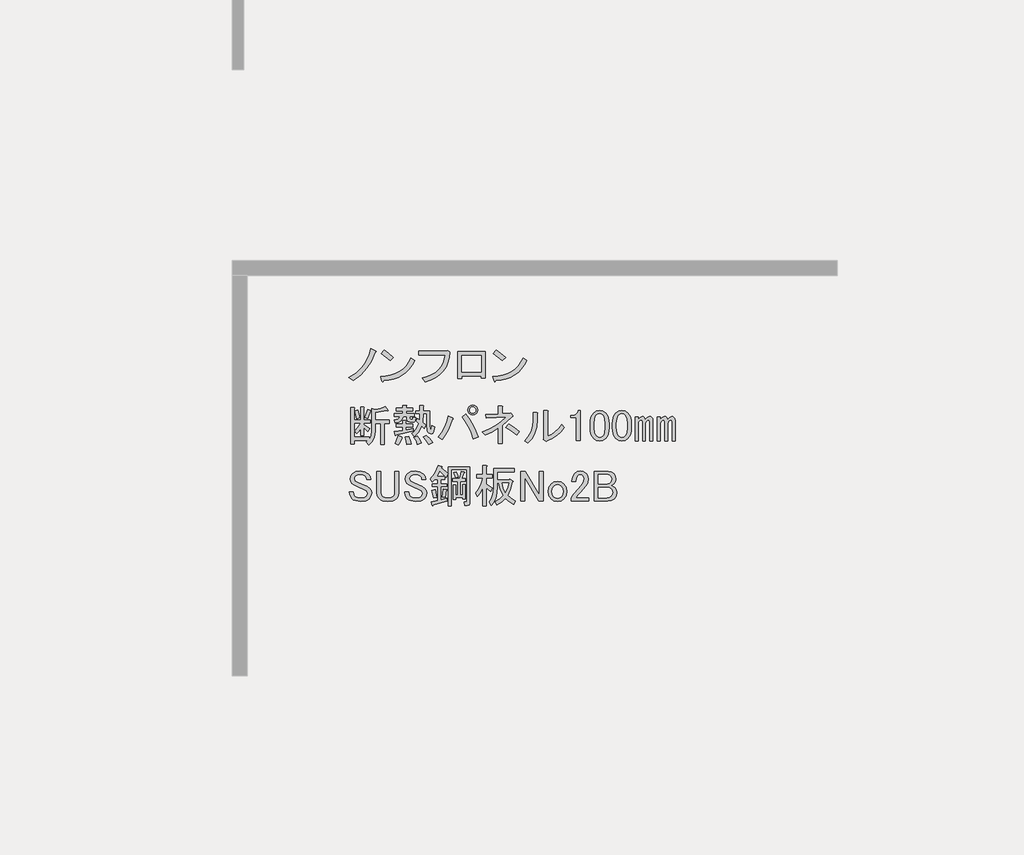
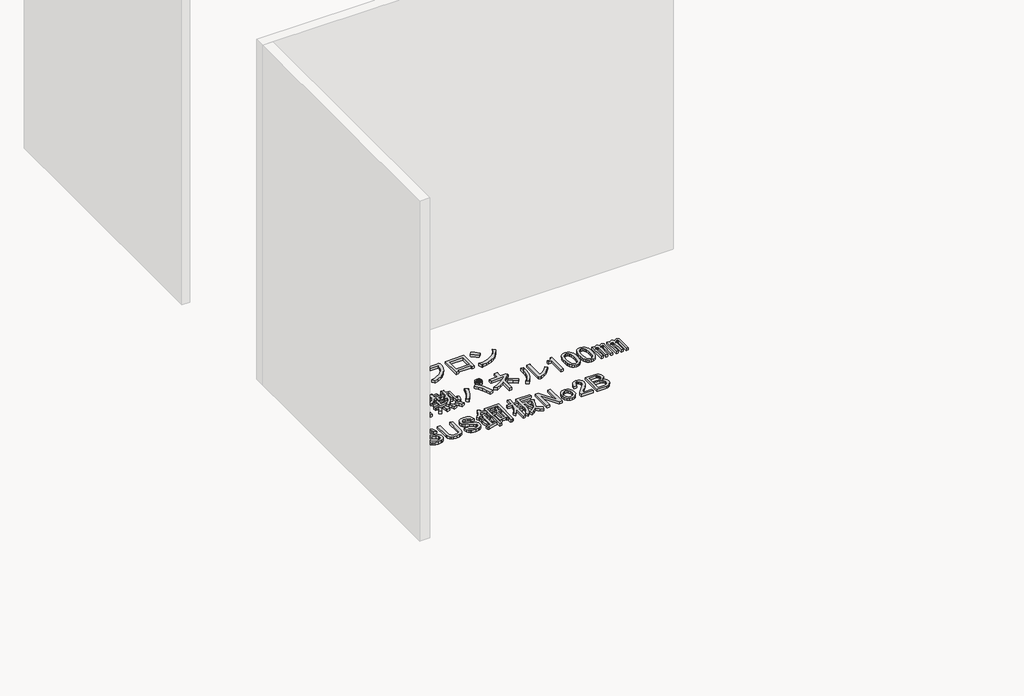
# One storey, part 42 of 117: 1 proxy.
"""IFC4 building model written with IfcOpenShell, lengths in millimetres."""

import ifcopenshell
import ifcopenshell.guid

model = None  # the IFC model being written
_history = None  # IfcOwnerHistory: only IFC2X3 demands one
_inside = {}  # id of a spatial element -> (the spatial element, [elements in it])
_under = {}  # id of a project, library or spatial element -> (it, [spatial elements below it])
_declared = {}  # id of a project -> (the project, [libraries it declares])
_typed = {}  # id of a type object -> (the type object, [elements of that type])
_made_of = {}  # id of a material, layer set ... -> (it, [elements and type objects made of it])


def new_model(schema):
    """Start an empty IFC model of exactly this schema.

    Asked for "IFC4X3", IfcOpenShell would pick the latest addendum, in which some entities
    have other attributes; the version numbers below select the first issue.
    IFC2X3 requires an IfcOwnerHistory on every rooted entity: one is made here for all.
    """
    global model, _history
    if schema == "IFC4X3":
        model = ifcopenshell.file(schema_version=(4, 3, 0, 0))
    else:
        model = ifcopenshell.file(schema=schema)
    _inside.clear()
    _under.clear()
    _declared.clear()
    _typed.clear()
    _made_of.clear()
    _history = None
    if model.schema == "IFC2X3":
        org = make("IfcOrganization", Name="unknown")
        user = make(
            "IfcPersonAndOrganization",
            ThePerson=make("IfcPerson", FamilyName="unknown"),
            TheOrganization=org,
        )
        app = make(
            "IfcApplication",
            ApplicationDeveloper=org,
            Version="unknown",
            ApplicationFullName="unknown",
            ApplicationIdentifier="unknown",
        )
        _history = make(
            "IfcOwnerHistory",
            OwningUser=user,
            OwningApplication=app,
            ChangeAction="ADDED",
            CreationDate=0,
        )
    return model


def make(cls, **values):
    """One entity of the class cls with the attributes given. An attribute that is None is left unset."""
    return model.create_entity(
        cls, **{name: value for name, value in values.items() if value is not None}
    )


def rooted(cls, **values):
    """An entity with a GlobalId (a new one), such as an element, a storey or a relation."""
    return make(cls, GlobalId=ifcopenshell.guid.new(), OwnerHistory=_history, **values)


def si_unit(unit_type, name, prefix=None):
    """IfcSIUnit, for example si_unit("LENGTHUNIT", "METRE", prefix="MILLI")."""
    return make("IfcSIUnit", UnitType=unit_type, Prefix=prefix, Name=name)


def assignment(units):
    """IfcUnitAssignment: the units of a project."""
    return None if units is None else make("IfcUnitAssignment", Units=units)


def point(xyz):
    """IfcCartesianPoint."""
    return None if xyz is None else make("IfcCartesianPoint", Coordinates=xyz)


def direction(xyz):
    """IfcDirection."""
    return None if xyz is None else make("IfcDirection", DirectionRatios=xyz)


def frame(location, z_axis=None, x_axis=None):
    """IfcAxis2Placement3D, a coordinate frame: its origin and axes. An axis left out is left unset."""
    return make(
        "IfcAxis2Placement3D",
        Location=point(location),
        Axis=direction(z_axis),
        RefDirection=direction(x_axis),
    )


def origin():
    """The frame at (0, 0, 0) with its axes left unset."""
    return frame((0.0, 0.0, 0.0))


def place(relative_to, where):
    """IfcLocalPlacement: puts the frame where relative to a parent placement (None: the world)."""
    return make(
        "IfcLocalPlacement", PlacementRelTo=relative_to, RelativePlacement=where
    )


def context(
    kind, dimensions, precision=None, world=None, true_north=None, identifier=None
):
    """IfcGeometricRepresentationContext, for example the 3D "Model" context."""
    return make(
        "IfcGeometricRepresentationContext",
        ContextIdentifier=identifier,
        ContextType=kind,
        CoordinateSpaceDimension=dimensions,
        Precision=precision,
        WorldCoordinateSystem=world,
        TrueNorth=true_north,
    )


def project(units=None, contexts=None):
    """IfcProject with its units and contexts."""
    return rooted(
        "IfcProject",
        Name="project",
        RepresentationContexts=contexts,
        UnitsInContext=assignment(units),
    )


def spatial(cls, under=None, at=None, **own):
    """A site, building, storey or space (cls), placed at a placement, below another one or the project."""
    s = rooted(cls, ObjectPlacement=at, **own)
    if under is not None:
        _under.setdefault(under.id(), (under, []))[1].append(s)
    return s


def polyline(points):
    """IfcPolyline through the points."""
    return make("IfcPolyline", Points=[point(p) for p in points])


def outline(outer, holes=None, kind="AREA"):
    """IfcArbitraryClosedProfileDef: a profile drawn as a closed curve; with holes, ...WithVoids."""
    if holes is None:
        return make("IfcArbitraryClosedProfileDef", ProfileType=kind, OuterCurve=outer)
    return make(
        "IfcArbitraryProfileDefWithVoids",
        ProfileType=kind,
        OuterCurve=outer,
        InnerCurves=holes,
    )


def extrude(swept, where, along, depth):
    """IfcExtrudedAreaSolid: the profile swept, set in the frame where, extruded along a direction by depth."""
    return make(
        "IfcExtrudedAreaSolid",
        SweptArea=swept,
        Position=where,
        ExtrudedDirection=direction(along),
        Depth=depth,
    )


def shape(context_of_items, identifier, shape_type, items):
    """IfcShapeRepresentation: the items that make up one representation, for example the "Body"."""
    return make(
        "IfcShapeRepresentation",
        ContextOfItems=context_of_items,
        RepresentationIdentifier=identifier,
        RepresentationType=shape_type,
        Items=items,
    )


def made_of(thing, what):
    """Note that an element or type object is made of a material, layer set ...; save() writes the relation."""
    if what is not None:
        _made_of.setdefault(what.id(), (what, []))[1].append(thing)
    return thing


def element(
    cls,
    number,
    at=None,
    inside=None,
    cuts=None,
    type_object=None,
    material=None,
    context=None,
    identifier="Body",
    shape_type=None,
    held_by="IfcProductDefinitionShape",
    body=None,
    shapes=None,
    **own,
):
    """One element of the class cls, such as IfcWall. Its Tag is "e" and its number.

    at: its placement. inside: the storey or other place that contains it. cuts: it is an
    opening in that element (IfcRelVoidsElement). A single representation is given by context,
    identifier, shape_type and body (its items); several are given by shapes. held_by: the class
    of the entity that holds the representations. save() writes the other relations.
    """
    e = rooted(cls, Tag="e%d" % number, ObjectPlacement=at, **own)
    if body is not None:
        shapes = [shape(context, identifier, shape_type, body)]
    if shapes is not None:
        e.Representation = make(held_by, Representations=shapes)
    if inside is not None:
        _inside.setdefault(inside.id(), (inside, []))[1].append(e)
    if cuts is not None:
        rooted(
            "IfcRelVoidsElement", RelatingBuildingElement=cuts, RelatedOpeningElement=e
        )
    if type_object is not None:
        _typed.setdefault(type_object.id(), (type_object, []))[1].append(e)
    return made_of(e, material)


def aggregate(whole, parts):
    """IfcRelAggregates: a whole, such as a stair, and the parts it consists of."""
    return rooted("IfcRelAggregates", RelatingObject=whole, RelatedObjects=parts)


def save(model, path):
    """Write the relations noted so far, then the file.

    IfcRelAggregates (storeys below a building ...), IfcRelContainedInSpatialStructure (elements
    in a storey), IfcRelDefinesByType, IfcRelAssociatesMaterial and IfcRelDeclares: one each for
    every whole, place, type object, material and project.
    """
    for whole, parts in _under.values():
        aggregate(whole, parts)
    for where, things in _inside.values():
        rooted(
            "IfcRelContainedInSpatialStructure",
            RelatedElements=things,
            RelatingStructure=where,
        )
    for kind, things in _typed.values():
        rooted("IfcRelDefinesByType", RelatedObjects=things, RelatingType=kind)
    for what, things in _made_of.values():
        rooted("IfcRelAssociatesMaterial", RelatedObjects=things, RelatingMaterial=what)
    for by, libraries in _declared.values():
        rooted("IfcRelDeclares", RelatingContext=by, RelatedDefinitions=libraries)
    model.write(path)


model = new_model("IFC4")

# Units and contexts
model_context = context("Model", 3, world=origin())
ifc_project = project(units=[si_unit("LENGTHUNIT", "METRE", prefix="MILLI")], contexts=[model_context])

# Site, building, storey
site = spatial("IfcSite", under=ifc_project)
building = spatial("IfcBuilding", under=site)
storey = spatial("IfcBuildingStorey", under=building, Name="レベル 1", Elevation=500.0)

# Proxy
placement = place(None, origin())
element("IfcBuildingElementProxy", 1, Name="200㎜\u3000MS Pゴシック", ObjectType="200㎜\u3000MS Pゴシック", at=placement, inside=storey, context=model_context, shape_type="SweptSolid", body=[
    extrude(outline(polyline([(8943.6706985, -4607.0496882), (8918.0952502, -4666.8215225), (8889.646156, -4712.7998566), (8847.9782907, -4758.2034615), (8798.8389462, -4795.560858), (8771.2519457, -4773.7211493), (8818.9544673, -4743.2605029), (8858.6107805, -4704.7536481), (8875.9963381, -4680.8305462), (8891.3703435, -4652.7406577), (8904.7327969, -4620.4839827), (8916.0836981, -4584.0605212), (8947.1190736, -4597.8540214), (8950.2800841, -4602.4518548), (8943.6706985, -4607.0496882)])), frame((0.0, 0.0, 500.0), z_axis=(0.0, 0.0, 1.0), x_axis=(1.0, 0.0, 0.0)), (0.0, 0.0, 1.0), 25.0),
    extrude(outline(polyline([(9043.3977052, -4662.2236891), (8984.7753292, -4615.0958967), (9004.3161212, -4590.9572713), (9031.6157571, -4610.7854279), (9065.2374138, -4640.3839804), (9043.3977052, -4662.2236891)])), frame((0.0, 0.0, 500.0), z_axis=(0.0, 0.0, 1.0), x_axis=(1.0, 0.0, 0.0)), (0.0, 0.0, 1.0), 25.0),
    extrude(outline(polyline([(9205.4713328, -4662.2236891), (9188.947869, -4691.965924), (9169.8381239, -4717.9724192), (9148.1420975, -4740.2431748), (9123.8597898, -4758.7781907), (9096.9912008, -4773.577467), (9067.5363306, -4784.6410036), (9035.495179, -4791.9688006), (9000.8677461, -4795.560858), (8995.1204544, -4803.6070664), (8989.3731626, -4797.8597747), (8980.1774958, -4767.9738575), (9016.0082679, -4765.2977748), (9048.7857912, -4758.9937141), (9078.5100658, -4749.0616756), (9105.1810916, -4735.5016591), (9128.7988687, -4718.3136646), (9149.363397, -4697.4976923), (9166.8746766, -4673.053742), (9181.3327074, -4644.9818138), (9205.4713328, -4662.2236891)])), frame((0.0, 0.0, 500.0), z_axis=(0.0, 0.0, 1.0), x_axis=(1.0, 0.0, 0.0)), (0.0, 0.0, 1.0), 25.0),
    extrude(outline(polyline([(9256.2314136, -4777.1695243), (9290.014713, -4767.4889298), (9319.5234641, -4755.1142922), (9344.757667, -4740.0456116), (9365.7173217, -4722.282888), (9382.402428, -4701.8261214), (9394.8129862, -4678.6753118), (9402.9489961, -4652.8304591), (9406.8104577, -4624.2915635), (9234.3917049, -4624.2915635), (9234.3917049, -4599.0034798), (9409.1093744, -4599.0034798), (9425.2017914, -4595.5551047), (9437.8458332, -4607.0496882), (9434.325617, -4643.5449909), (9426.0638851, -4676.5919185), (9413.0606375, -4706.1904711), (9395.3158742, -4732.3406486), (9372.8295952, -4755.042451), (9345.6018005, -4774.2958784), (9313.6324901, -4790.1009308), (9276.921664, -4802.4576081), (9256.2314136, -4777.1695243)])), frame((0.0, 0.0, 500.0), z_axis=(0.0, 0.0, 1.0), x_axis=(1.0, 0.0, 0.0)), (0.0, 0.0, 1.0), 25.0),
    extrude(outline(polyline([(9670.955987, -4776.020066), (9644.5184449, -4776.020066), (9644.5184449, -4763.3760241), (9516.9285679, -4763.3760241), (9516.9285679, -4781.7673577), (9490.4910258, -4781.7673577), (9490.4910258, -4602.4518548), (9670.955987, -4602.4518548), (9670.955987, -4776.020066)]), holes=[polyline([(9516.9285679, -4627.7399386), (9516.9285679, -4738.0879404), (9644.5184449, -4738.0879404), (9644.5184449, -4627.7399386), (9516.9285679, -4627.7399386)])]), frame((0.0, 0.0, 500.0), z_axis=(0.0, 0.0, 1.0), x_axis=(1.0, 0.0, 0.0)), (0.0, 0.0, 1.0), 25.0),
    extrude(outline(polyline([(9947.0099049, -4662.2236891), (9930.4864411, -4691.965924), (9911.376696, -4717.9724192), (9889.6806696, -4740.2431748), (9865.3983619, -4758.7781907), (9838.5297729, -4773.577467), (9809.0749026, -4784.6410036), (9777.0337511, -4791.9688006), (9742.4063182, -4795.560858), (9736.6590264, -4803.6070664), (9730.9117347, -4797.8597747), (9721.7160679, -4767.9738575), (9757.5468399, -4765.2977748), (9790.3243633, -4758.9937141), (9820.0486378, -4749.0616756), (9846.7196637, -4735.5016591), (9870.3374407, -4718.3136646), (9890.9019691, -4697.4976923), (9908.4132486, -4673.053742), (9922.8712795, -4644.9818138), (9947.0099049, -4662.2236891)])), frame((0.0, 0.0, 500.0), z_axis=(0.0, 0.0, 1.0), x_axis=(1.0, 0.0, 0.0)), (0.0, 0.0, 1.0), 25.0),
    extrude(outline(polyline([(9784.9362772, -4662.2236891), (9726.3139013, -4615.0958967), (9745.8546933, -4590.9572713), (9773.1543291, -4610.7854279), (9806.7759859, -4640.3839804), (9784.9362772, -4662.2236891)])), frame((0.0, 0.0, 500.0), z_axis=(0.0, 0.0, 1.0), x_axis=(1.0, 0.0, 0.0)), (0.0, 0.0, 1.0), 25.0),
    extrude(outline(polyline([(8877.0021141, -5039.2345221), (8894.2439894, -4986.3594379), (8914.9342397, -4992.1067296), (8916.6584273, -4995.2677401), (8912.635323, -4997.8540214), (8895.3934477, -5046.1312722), (8877.0021141, -5039.2345221)])), frame((0.0, 0.0, 500.0), z_axis=(0.0, 0.0, 1.0), x_axis=(1.0, 0.0, 0.0)), (0.0, 0.0, 1.0), 25.0),
    extrude(outline(polyline([(9031.0295333, -4990.9572713), (9029.3053458, -4995.5551047), (9021.8338665, -4993.256188), (8944.8201569, -5005.9002299), (8944.8201569, -5055.326939), (9036.7768251, -5055.326939), (9036.7768251, -5077.1666477), (9005.7414495, -5077.1666477), (9005.7414495, -5217.4005666), (8982.7522825, -5217.4005666), (8982.7522825, -5077.1666477), (8944.8201569, -5077.1666477), (8944.8201569, -5126.5933568), (8942.2338756, -5154.3958807), (8934.4750317, -5179.1810764), (8921.5436253, -5200.948944), (8903.4396562, -5219.6994833), (8886.1977809, -5200.1586914), (8896.5429061, -5190.9630245), (8806.8851546, -5190.9630245), (8806.8851546, -5212.8027332), (8783.8959876, -5212.8027332), (8783.8959876, -4973.715396), (8805.7356963, -4973.715396), (8810.6208943, -4976.0143127), (8806.8851546, -4980.6121461), (8806.8851546, -5056.4763974), (8849.4151137, -5056.4763974), (8849.4151137, -4969.1175626), (8867.8064473, -4969.1175626), (8872.6916453, -4971.4164793), (8868.9559057, -4976.0143127), (8868.9559057, -5056.4763974), (8912.635323, -5056.4763974), (8912.635323, -5074.867731), (8868.9559057, -5074.867731), (8868.9559057, -5084.0633978), (8909.186948, -5110.5009399), (8895.3934477, -5132.3406486), (8868.9559057, -5105.9031065), (8868.9559057, -5158.7781907), (8849.4151137, -5158.7781907), (8849.4151137, -5110.5009399), (8836.1963426, -5130.3290965), (8821.8281132, -5146.1341488), (8809.1840713, -5127.7428152), (8831.02378, -5103.6041898), (8848.2656553, -5074.867731), (8806.8851546, -5074.867731), (8806.8851546, -5169.1233159), (8904.5891146, -5169.1233159), (8904.5891146, -5182.9168161), (8917.520521, -5158.7781907), (8921.8309898, -5125.4438985), (8921.8309898, -4980.6121461), (8943.6706985, -4986.3594379), (8979.8786366, -4978.8879586), (9010.339283, -4965.6691875), (9031.0295333, -4990.9572713)])), frame((0.0, 0.0, 500.0), z_axis=(0.0, 0.0, 1.0), x_axis=(1.0, 0.0, 0.0)), (0.0, 0.0, 1.0), 25.0),
    extrude(outline(polyline([(8822.9775716, -5047.2807305), (8810.3335297, -4996.7045631), (8829.8743217, -4989.8078129), (8837.6331656, -5013.9464383), (8842.5183636, -5040.3839804), (8822.9775716, -5047.2807305)])), frame((0.0, 0.0, 500.0), z_axis=(0.0, 0.0, 1.0), x_axis=(1.0, 0.0, 0.0)), (0.0, 0.0, 1.0), 25.0),
    extrude(outline(polyline([(9121.8367431, -5167.9738575), (9125.2851182, -5172.8590555), (9119.5378264, -5176.020066), (9109.7674304, -5201.5955143), (9098.8475761, -5220.8489417), (9075.858409, -5209.3543582), (9088.5024509, -5185.790462), (9098.8475761, -5158.7781907), (9121.8367431, -5167.9738575)])), frame((0.0, 0.0, 500.0), z_axis=(0.0, 0.0, 1.0), x_axis=(1.0, 0.0, 0.0)), (0.0, 0.0, 1.0), 25.0),
    extrude(outline(polyline([(9166.6656188, -5163.3760241), (9176.7233794, -5190.67566), (9181.6085774, -5212.8027332), (9152.8721186, -5218.550025), (9150.2858373, -5196.9976809), (9142.5269934, -5166.8243992), (9166.6656188, -5163.3760241)])), frame((0.0, 0.0, 500.0), z_axis=(0.0, 0.0, 1.0), x_axis=(1.0, 0.0, 0.0)), (0.0, 0.0, 1.0), 25.0),
    extrude(outline(polyline([(9281.611454, -5157.6287323), (9306.3248086, -5178.8937119), (9325.2908714, -5203.6070664), (9298.8533293, -5218.550025), (9279.5999019, -5188.9514724), (9260.9212037, -5169.1233159), (9281.611454, -5157.6287323)])), frame((0.0, 0.0, 500.0), z_axis=(0.0, 0.0, 1.0), x_axis=(1.0, 0.0, 0.0)), (0.0, 0.0, 1.0), 25.0),
    extrude(outline(polyline([(9222.9890781, -5216.2511083), (9214.655505, -5191.5377537), (9201.1493694, -5170.2727742), (9221.8396197, -5162.2265657), (9238.7941304, -5183.7789098), (9250.5760785, -5207.0554415), (9222.9890781, -5216.2511083)])), frame((0.0, 0.0, 500.0), z_axis=(0.0, 0.0, 1.0), x_axis=(1.0, 0.0, 0.0)), (0.0, 0.0, 1.0), 25.0),
    extrude(outline(polyline([(9083.9046175, -5153.0308989), (9081.8930654, -5157.9160969), (9078.1573257, -5156.479274), (9072.410034, -5132.3406486), (9127.5840349, -5124.2944401), (9127.5840349, -5101.3052731), (9083.9046175, -5101.3052731), (9083.9046175, -5082.9139395), (9127.5840349, -5082.9139395), (9127.5840349, -5059.9247724), (9145.9753685, -5059.9247724), (9150.8605665, -5062.2236891), (9147.1248268, -5066.8215225), (9147.1248268, -5082.9139395), (9191.9537026, -5082.9139395), (9191.9537026, -5101.3052731), (9147.1248268, -5101.3052731), (9147.1248268, -5120.8460651), (9197.7009943, -5111.6503983), (9197.7009943, -5127.7428152), (9083.9046175, -5153.0308989)])), frame((0.0, 0.0, 500.0), z_axis=(0.0, 0.0, 1.0), x_axis=(1.0, 0.0, 0.0)), (0.0, 0.0, 1.0), 25.0),
    extrude(outline(polyline([(9154.021577, -5031.1883136), (9128.7334932, -5031.1883136), (9124.1356598, -5048.6457123), (9113.7905346, -5061.9363245), (9097.6981177, -5071.0601502), (9075.858409, -5076.0171893), (9071.2605756, -5056.4763974), (9096.5486594, -5047.8554597), (9104.0201386, -5040.5276627), (9108.0432429, -5031.1883136), (9072.410034, -5031.1883136), (9072.410034, -5012.79698), (9126.4345765, -5012.79698), (9126.4345765, -4995.5551047), (9082.7551591, -4995.5551047), (9082.7551591, -4977.1637711), (9126.4345765, -4977.1637711), (9126.4345765, -4958.7724374), (9148.2742852, -4958.7724374), (9153.1594832, -4961.0713541), (9149.4237436, -4965.6691875), (9149.4237436, -4977.1637711), (9191.9537026, -4977.1637711), (9191.9537026, -4995.5551047), (9149.4237436, -4995.5551047), (9149.4237436, -5012.79698), (9202.2988277, -5012.79698), (9202.2988277, -5031.1883136), (9173.5623689, -5031.1883136), (9173.5623689, -5043.8323555), (9174.9991919, -5049.0049181), (9179.3096607, -5050.7291056), (9189.6547859, -5050.7291056), (9193.3905255, -5047.5680951), (9193.1031609, -5038.0850637), (9212.6439529, -5040.3839804), (9209.770307, -5061.9363245), (9204.4540622, -5067.3244106), (9196.551536, -5069.1204392), (9172.4129106, -5069.1204392), (9158.6194104, -5064.2352412), (9154.021577, -5049.5796472), (9154.021577, -5031.1883136)])), frame((0.0, 0.0, 500.0), z_axis=(0.0, 0.0, 1.0), x_axis=(1.0, 0.0, 0.0)), (0.0, 0.0, 1.0), 25.0),
    extrude(outline(polyline([(9285.0598291, -5013.9464383), (9263.2201204, -5013.9464383), (9258.622287, -5071.4193559), (9278.163079, -5089.8106896), (9267.8179538, -5111.6503983), (9251.7255369, -5095.5579813), (9232.4721095, -5133.2027424), (9202.2988277, -5165.6749408), (9185.0569525, -5144.9846905), (9200.1435933, -5133.0590601), (9213.2186821, -5117.9724192), (9224.2822187, -5099.7247679), (9233.3342033, -5078.316106), (9216.092328, -5063.3731475), (9224.1385364, -5046.1312722), (9237.9320367, -5056.4763974), (9240.2309534, -5013.9464383), (9212.6439529, -5013.9464383), (9212.6439529, -4995.5551047), (9240.2309534, -4995.5551047), (9240.2309534, -4961.0713541), (9262.0706621, -4961.0713541), (9266.95586, -4963.3702708), (9263.2201204, -4967.9681043), (9263.2201204, -4995.5551047), (9304.6006211, -4995.5551047), (9304.6006211, -5092.1096063), (9308.0489961, -5116.2482317), (9311.2818477, -5118.2597838), (9314.0836525, -5115.0987733), (9318.3941213, -5093.2590646), (9337.9349133, -5100.1558147), (9333.408921, -5126.9525626), (9325.578236, -5142.9731384), (9314.4428582, -5148.2175421), (9300.0027877, -5142.6857738), (9293.4652433, -5135.3579768), (9288.7955687, -5123.719711), (9285.0598291, -5087.5117729), (9285.0598291, -5013.9464383)])), frame((0.0, 0.0, 500.0), z_axis=(0.0, 0.0, 1.0), x_axis=(1.0, 0.0, 0.0)), (0.0, 0.0, 1.0), 25.0),
    extrude(outline(polyline([(9543.6879583, -5016.245355), (9570.3410238, -5052.9561812), (9592.8273029, -5090.6727833), (9611.1467953, -5129.3951616), (9625.2995013, -5169.1233159), (9594.2641258, -5179.468441), (9578.8182792, -5136.3637528), (9561.2171982, -5097.856898), (9541.4608827, -5063.9478766), (9519.5493329, -5034.6366887), (9543.6879583, -5016.245355)])), frame((0.0, 0.0, 500.0), z_axis=(0.0, 0.0, 1.0), x_axis=(1.0, 0.0, 0.0)), (0.0, 0.0, 1.0), 25.0),
    extrude(outline(polyline([(9456.3291235, -5042.6828971), (9460.3522278, -5048.1428243), (9454.0302068, -5053.0280223), (9442.1045764, -5088.4457078), (9427.0179356, -5122.282888), (9408.7702842, -5154.539563), (9387.3616224, -5185.2157328), (9360.9240803, -5167.9738575), (9384.1287708, -5136.5074351), (9403.1666748, -5103.0294606), (9418.0377922, -5067.539934), (9428.7421231, -5030.0388553), (9456.3291235, -5042.6828971)])), frame((0.0, 0.0, 500.0), z_axis=(0.0, 0.0, 1.0), x_axis=(1.0, 0.0, 0.0)), (0.0, 0.0, 1.0), 25.0),
    extrude(outline(polyline([(9589.6662924, -5021.9926468), (9577.0222505, -5019.6937301), (9566.6771253, -5012.79698), (9559.7803752, -5002.4518548), (9557.4814585, -4989.8078129), (9559.7803752, -4977.1637711), (9566.6771253, -4966.8186459), (9577.0222505, -4959.9218958), (9589.6662924, -4957.6229791), (9602.3103343, -4959.9218958), (9612.6554594, -4966.8186459), (9619.5522095, -4977.1637711), (9621.8511262, -4989.8078129), (9619.5522095, -5002.4518548), (9612.6554594, -5012.79698), (9602.3103343, -5019.6937301), (9589.6662924, -5021.9926468)]), holes=[polyline([(9589.6662924, -5010.4980633), (9597.9998654, -5009.0612403), (9604.609251, -5004.7507715), (9608.9197198, -4998.141386), (9610.3565427, -4989.8078129), (9608.9197198, -4981.4742399), (9604.609251, -4974.8648544), (9597.9998654, -4970.5543855), (9589.6662924, -4969.1175626), (9581.3327193, -4970.5543855), (9574.7233338, -4974.8648544), (9570.412865, -4981.4742399), (9568.976042, -4989.8078129), (9570.412865, -4998.141386), (9574.7233338, -5004.7507715), (9581.3327193, -5009.0612403), (9589.6662924, -5010.4980633)])]), frame((0.0, 0.0, 500.0), z_axis=(0.0, 0.0, 1.0), x_axis=(1.0, 0.0, 0.0)), (0.0, 0.0, 1.0), 25.0),
    extrude(outline(polyline([(9879.3297971, -5155.3298156), (9842.2597652, -5126.0186277), (9809.2128376, -5104.7536481), (9826.4547129, -5082.9139395), (9865.2489323, -5106.1904711), (9898.8705891, -5132.3406486), (9879.3297971, -5155.3298156)])), frame((0.0, 0.0, 500.0), z_axis=(0.0, 0.0, 1.0), x_axis=(1.0, 0.0, 0.0)), (0.0, 0.0, 1.0), 25.0),
    extrude(outline(polyline([(9833.351463, -5011.6475216), (9840.2482131, -5009.3486049), (9852.892255, -5026.5904802), (9854.0417134, -5032.6251366), (9848.2944216, -5034.6366887), (9785.0742122, -5090.9601479), (9785.0742122, -5211.6532749), (9758.6366701, -5211.6532749), (9758.6366701, -5109.3514816), (9718.4056278, -5133.4901069), (9673.5767521, -5155.3298156), (9654.0359601, -5134.6395653), (9699.5832473, -5115.1706145), (9740.8200657, -5092.3969709), (9777.7464152, -5066.3186345), (9810.362296, -5036.9356054), (9680.4735022, -5042.6828971), (9677.0251271, -5017.3948134), (9758.6366701, -5015.0958967), (9758.6366701, -4963.3702708), (9781.6258372, -4963.3702708), (9787.6604935, -4966.8186459), (9785.0742122, -4972.5659377), (9785.0742122, -5013.9464383), (9833.351463, -5011.6475216)])), frame((0.0, 0.0, 500.0), z_axis=(0.0, 0.0, 1.0), x_axis=(1.0, 0.0, 0.0)), (0.0, 0.0, 1.0), 25.0),
    extrude(outline(polyline([(9932.296838, -5193.2619413), (9957.4412394, -5164.0225944), (9975.4015262, -5131.4785548), (9986.1776982, -5095.6298225), (9989.7697556, -5056.4763974), (9989.7697556, -5004.7507715), (10013.908381, -5004.7507715), (10019.6556727, -5008.1991466), (10016.2072977, -5013.9464383), (10016.2072977, -5055.326939), (10012.3997169, -5101.0897496), (10000.9769745, -5141.82368), (9981.9390705, -5177.5287301), (9955.286005, -5208.2048998), (9932.296838, -5193.2619413)])), frame((0.0, 0.0, 500.0), z_axis=(0.0, 0.0, 1.0), x_axis=(1.0, 0.0, 0.0)), (0.0, 0.0, 1.0), 25.0),
    extrude(outline(polyline([(10086.3242571, -5162.2265657), (10111.1094529, -5150.0135708), (10134.8888725, -5132.9153778), (10157.6625161, -5110.9319868), (10179.4303837, -5084.0633978), (10195.5228006, -5105.9031065), (10172.246269, -5133.7056304), (10146.0960914, -5157.3413678), (10117.0722681, -5176.8103186), (10085.1747988, -5192.1124829), (10075.979132, -5196.7103163), (10057.5877983, -5182.9168161), (10059.886715, -5177.1695243), (10059.886715, -4992.1067296), (10084.0253404, -4992.1067296), (10089.7726322, -4995.5551047), (10086.3242571, -5001.3023965), (10086.3242571, -5162.2265657)])), frame((0.0, 0.0, 500.0), z_axis=(0.0, 0.0, 1.0), x_axis=(1.0, 0.0, 0.0)), (0.0, 0.0, 1.0), 25.0),
    extrude(outline(polyline([(10274.8354269, -5015.0958967), (10282.8816353, -5004.1760423), (10286.3300104, -4992.1067296), (10300.1235106, -4992.1067296), (10300.1235106, -5190.9630245), (10273.6859685, -5190.9630245), (10273.6859685, -5038.0850637), (10239.202218, -5038.0850637), (10239.202218, -5024.2915635), (10249.5473431, -5024.2915635), (10263.9155725, -5021.9926468), (10274.8354269, -5015.0958967)])), frame((0.0, 0.0, 500.0), z_axis=(0.0, 0.0, 1.0), x_axis=(1.0, 0.0, 0.0)), (0.0, 0.0, 1.0), 25.0),
    extrude(outline(polyline([(10365.6426367, -5081.7644811), (10367.0794596, -5058.2005849), (10371.3899284, -5038.0850637), (10378.5740431, -5021.4179176), (10388.6318037, -5008.1991466), (10406.7357728, -4996.1298339), (10428.862846, -4992.1067296), (10450.9899193, -4996.1298339), (10469.0938884, -5008.1991466), (10479.1516489, -5021.4179176), (10486.3357636, -5038.0850637), (10490.6462325, -5058.2005849), (10492.0830554, -5081.7644811), (10492.0830554, -5104.7536481), (10490.6462325, -5127.8146563), (10486.3357636, -5147.5709718), (10479.1516489, -5164.0225944), (10469.0938884, -5177.1695243), (10450.9899193, -5189.238837), (10428.862846, -5193.2619413), (10406.7357728, -5189.238837), (10388.6318037, -5177.1695243), (10378.5740431, -5164.0225944), (10371.3899284, -5147.5709718), (10367.0794596, -5127.8146563), (10365.6426367, -5104.7536481), (10365.6426367, -5081.7644811)]), holes=[polyline([(10428.862846, -5013.9464383), (10417.9429917, -5016.245355), (10408.1725957, -5023.1421052), (10401.6350513, -5032.2659308), (10396.9653768, -5044.6944493), (10393.2296371, -5079.4655644), (10393.2296371, -5105.9031065), (10397.2527414, -5140.0994925), (10402.2816217, -5152.6716932), (10409.3220541, -5162.2265657), (10418.8050855, -5169.1233159), (10428.862846, -5171.4222326), (10439.7827004, -5169.1233159), (10449.5530964, -5162.2265657), (10456.0906408, -5153.1027401), (10460.7603153, -5140.6742216), (10464.496055, -5105.9031065), (10464.496055, -5079.4655644), (10460.7603153, -5044.6944493), (10456.0906408, -5032.2659308), (10449.5530964, -5023.1421052), (10439.7827004, -5016.245355), (10428.862846, -5013.9464383)])]), frame((0.0, 0.0, 500.0), z_axis=(0.0, 0.0, 1.0), x_axis=(1.0, 0.0, 0.0)), (0.0, 0.0, 1.0), 25.0),
    extrude(outline(polyline([(10512.7733057, -5081.7644811), (10514.2101287, -5058.2005849), (10518.5205975, -5038.0850637), (10525.7047122, -5021.4179176), (10535.7624728, -5008.1991466), (10553.8664418, -4996.1298339), (10575.9935151, -4992.1067296), (10598.1205884, -4996.1298339), (10616.2245574, -5008.1991466), (10626.282318, -5021.4179176), (10633.4664327, -5038.0850637), (10637.7769015, -5058.2005849), (10639.2137245, -5081.7644811), (10639.2137245, -5104.7536481), (10637.7769015, -5127.8146563), (10633.4664327, -5147.5709718), (10626.282318, -5164.0225944), (10616.2245574, -5177.1695243), (10598.1205884, -5189.238837), (10575.9935151, -5193.2619413), (10553.8664418, -5189.238837), (10535.7624728, -5177.1695243), (10525.7047122, -5164.0225944), (10518.5205975, -5147.5709718), (10514.2101287, -5127.8146563), (10512.7733057, -5104.7536481), (10512.7733057, -5081.7644811)]), holes=[polyline([(10575.9935151, -5013.9464383), (10565.0736608, -5016.245355), (10555.3032648, -5023.1421052), (10548.7657204, -5032.2659308), (10544.0960458, -5044.6944493), (10540.3603062, -5079.4655644), (10540.3603062, -5105.9031065), (10544.3834104, -5140.0994925), (10549.4122907, -5152.6716932), (10556.4527231, -5162.2265657), (10565.9357545, -5169.1233159), (10575.9935151, -5171.4222326), (10586.9133694, -5169.1233159), (10596.6837654, -5162.2265657), (10603.2213098, -5153.1027401), (10607.8909844, -5140.6742216), (10611.626724, -5105.9031065), (10611.626724, -5079.4655644), (10607.8909844, -5044.6944493), (10603.2213098, -5032.2659308), (10596.6837654, -5023.1421052), (10586.9133694, -5016.245355), (10575.9935151, -5013.9464383)])]), frame((0.0, 0.0, 500.0), z_axis=(0.0, 0.0, 1.0), x_axis=(1.0, 0.0, 0.0)), (0.0, 0.0, 1.0), 25.0),
    extrude(outline(polyline([(10684.0426002, -5193.2619413), (10664.5018082, -5193.2619413), (10664.5018082, -5035.786147), (10684.0426002, -5035.786147), (10684.0426002, -5053.0280223), (10696.1119129, -5037.5103346), (10709.3306839, -5032.337772), (10718.5263508, -5033.7745949), (10725.4231009, -5038.0850637), (10732.319851, -5051.878564), (10745.2512574, -5037.22297), (10758.7573931, -5032.337772), (10767.0909661, -5033.7745949), (10773.7003517, -5038.0850637), (10778.8729142, -5046.7060014), (10780.5971018, -5058.7753141), (10780.5971018, -5193.2619413), (10761.0563098, -5193.2619413), (10761.0563098, -5069.1204392), (10758.4700285, -5059.6374078), (10750.7111846, -5056.4763974), (10740.3660594, -5061.0742308), (10734.3314031, -5069.6951684), (10732.319851, -5079.4655644), (10732.319851, -5193.2619413), (10712.779059, -5193.2619413), (10712.779059, -5069.1204392), (10710.1927777, -5059.6374078), (10702.4339338, -5056.4763974), (10692.0888087, -5061.0742308), (10686.0541523, -5069.6951684), (10684.0426002, -5079.4655644), (10684.0426002, -5193.2619413)])), frame((0.0, 0.0, 500.0), z_axis=(0.0, 0.0, 1.0), x_axis=(1.0, 0.0, 0.0)), (0.0, 0.0, 1.0), 25.0),
    extrude(outline(polyline([(10905.8880621, -5032.337772), (10914.2216352, -5033.7745949), (10920.8310207, -5038.0850637), (10926.0035833, -5046.7060014), (10927.7277708, -5058.7753141), (10927.7277708, -5193.2619413), (10908.1869788, -5193.2619413), (10908.1869788, -5069.1204392), (10905.6006976, -5059.6374078), (10897.8418537, -5056.4763974), (10887.4967285, -5061.0742308), (10881.4620722, -5069.6951684), (10879.45052, -5079.4655644), (10879.45052, -5193.2619413), (10859.9097281, -5193.2619413), (10859.9097281, -5069.1204392), (10857.3234468, -5059.6374078), (10849.5646029, -5056.4763974), (10839.2194777, -5061.0742308), (10833.1848214, -5069.6951684), (10831.1732693, -5079.4655644), (10831.1732693, -5193.2619413), (10811.6324773, -5193.2619413), (10811.6324773, -5035.786147), (10831.1732693, -5035.786147), (10831.1732693, -5053.0280223), (10843.242582, -5037.5103346), (10856.461353, -5032.337772), (10865.6570198, -5033.7745949), (10872.5537699, -5038.0850637), (10879.45052, -5051.878564), (10892.3819265, -5037.22297), (10905.8880621, -5032.337772)])), frame((0.0, 0.0, 500.0), z_axis=(0.0, 0.0, 1.0), x_axis=(1.0, 0.0, 0.0)), (0.0, 0.0, 1.0), 25.0),
    extrude(outline(polyline([(8779.2981542, -5447.2807305), (8783.3212584, -5426.8778448), (8795.3905711, -5409.3486049), (8815.7934569, -5397.2792922), (8844.8172803, -5393.256188), (8876.1400204, -5397.8540214), (8898.8418228, -5411.6475216), (8910.9111355, -5429.1767615), (8914.9342397, -5449.5796472), (8888.4966976, -5449.5796472), (8886.1977809, -5436.9356054), (8879.3010308, -5426.5904802), (8866.0822598, -5418.8316363), (8847.116197, -5416.245355), (8826.7133112, -5418.5442717), (8813.7819048, -5425.4410219), (8807.7472484, -5434.0619595), (8805.7356963, -5443.8323555), (8810.3335297, -5458.7753141), (8831.02378, -5470.2698976), (8890.7956143, -5496.7074397), (8908.0374896, -5508.2020232), (8917.520521, -5521.9955234), (8920.6815315, -5538.0879404), (8916.6584273, -5559.3529199), (8904.5891146, -5577.1695243), (8894.6031951, -5584.7128448), (8881.8873121, -5590.1009308), (8848.2656553, -5594.4113996), (8814.6439985, -5589.238837), (8801.0660217, -5582.7731338), (8789.6432794, -5573.7211493), (8778.4360604, -5555.3298156), (8774.7003208, -5530.0417319), (8801.1378629, -5530.0417319), (8803.4367796, -5547.8583363), (8810.3335297, -5559.927649), (8826.4259466, -5569.4106804), (8849.4151137, -5572.5716909), (8870.3927286, -5569.698045), (8885.0483226, -5561.0771074), (8891.9450727, -5551.8814406), (8894.2439894, -5542.6857738), (8892.5198019, -5533.2027424), (8887.3472393, -5525.4438985), (8868.9559057, -5513.949315), (8839.0699885, -5500.1558147), (8805.7356963, -5485.2128562), (8789.6432794, -5474.867731), (8781.8844355, -5462.7984183), (8779.2981542, -5447.2807305)])), frame((0.0, 0.0, 500.0), z_axis=(0.0, 0.0, 1.0), x_axis=(1.0, 0.0, 0.0)), (0.0, 0.0, 1.0), 25.0),
    extrude(outline(polyline([(8954.7054987, -5395.5551047), (8981.1430408, -5395.5551047), (8981.1430408, -5533.4901069), (8983.7293221, -5548.1457009), (8991.488166, -5559.927649), (9007.0058537, -5569.4106804), (9028.2708332, -5572.5716909), (9049.5358128, -5569.4106804), (9065.0535005, -5559.927649), (9072.8123444, -5548.1457009), (9075.3986257, -5533.4901069), (9075.3986257, -5395.5551047), (9101.8361678, -5395.5551047), (9101.8361678, -5534.6395653), (9097.8130635, -5557.6287323), (9085.7437508, -5576.020066), (9075.2549434, -5584.0662744), (9062.1798546, -5589.8135662), (9028.2708332, -5594.4113996), (8994.3618119, -5589.8135662), (8981.2867231, -5584.0662744), (8970.7979156, -5576.020066), (8958.7286029, -5557.6287323), (8954.7054987, -5534.6395653), (8954.7054987, -5395.5551047)])), frame((0.0, 0.0, 500.0), z_axis=(0.0, 0.0, 1.0), x_axis=(1.0, 0.0, 0.0)), (0.0, 0.0, 1.0), 25.0),
    extrude(outline(polyline([(9144.1822135, -5447.2807305), (9148.2053177, -5426.8778448), (9160.2746304, -5409.3486049), (9180.6775161, -5397.2792922), (9209.7013395, -5393.256188), (9241.0240796, -5397.8540214), (9263.7258821, -5411.6475216), (9275.7951948, -5429.1767615), (9279.818299, -5449.5796472), (9253.3807569, -5449.5796472), (9251.0818402, -5436.9356054), (9244.1850901, -5426.5904802), (9230.966319, -5418.8316363), (9212.0002562, -5416.245355), (9191.5973705, -5418.5442717), (9178.665964, -5425.4410219), (9172.6313077, -5434.0619595), (9170.6197556, -5443.8323555), (9175.217589, -5458.7753141), (9195.9078393, -5470.2698976), (9255.6796736, -5496.7074397), (9272.9215489, -5508.2020232), (9282.4045803, -5521.9955234), (9285.5655908, -5538.0879404), (9281.5424865, -5559.3529199), (9269.4731738, -5577.1695243), (9259.4872544, -5584.7128448), (9246.7713714, -5590.1009308), (9213.1497146, -5594.4113996), (9179.5280578, -5589.238837), (9165.950081, -5582.7731338), (9154.5273386, -5573.7211493), (9143.3201197, -5555.3298156), (9139.5843801, -5530.0417319), (9166.0219222, -5530.0417319), (9168.3208389, -5547.8583363), (9175.217589, -5559.927649), (9191.3100059, -5569.4106804), (9214.2991729, -5572.5716909), (9235.2767879, -5569.698045), (9249.9323819, -5561.0771074), (9256.829132, -5551.8814406), (9259.1280487, -5542.6857738), (9257.4038611, -5533.2027424), (9252.2312986, -5525.4438985), (9233.8399649, -5513.949315), (9203.9540478, -5500.1558147), (9170.6197556, -5485.2128562), (9154.5273386, -5474.867731), (9146.7684948, -5462.7984183), (9144.1822135, -5447.2807305)])), frame((0.0, 0.0, 500.0), z_axis=(0.0, 0.0, 1.0), x_axis=(1.0, 0.0, 0.0)), (0.0, 0.0, 1.0), 25.0),
    extrude(outline(polyline([(9413.8451429, -5434.6366887), (9372.4646422, -5390.9572713), (9350.6249335, -5430.0388553), (9405.7989344, -5430.0388553), (9405.7989344, -5448.4301889), (9379.3613923, -5448.4301889), (9379.3613923, -5477.1666477), (9417.2935179, -5477.1666477), (9417.2935179, -5495.5579813), (9379.3613923, -5495.5579813), (9379.3613923, -5582.9168161), (9418.4429763, -5572.5716909), (9420.741893, -5592.1124829), (9328.7852248, -5617.4005666), (9326.4863081, -5623.1478584), (9321.8884747, -5619.6994833), (9314.9917246, -5596.7103163), (9359.8206003, -5587.5146495), (9359.8206003, -5495.5579813), (9321.8884747, -5495.5579813), (9321.8884747, -5477.1666477), (9359.8206003, -5477.1666477), (9359.8206003, -5448.4301889), (9337.9808916, -5448.4301889), (9323.037933, -5466.8215225), (9310.3938912, -5446.1312722), (9338.5556208, -5408.4865112), (9363.2689754, -5357.6229791), (9385.1086841, -5363.3702708), (9388.5570591, -5367.1060105), (9382.8097674, -5369.1175626), (9381.660309, -5372.5659377), (9426.4891847, -5410.4980633), (9413.8451429, -5434.6366887)])), frame((0.0, 0.0, 500.0), z_axis=(0.0, 0.0, 1.0), x_axis=(1.0, 0.0, 0.0)), (0.0, 0.0, 1.0), 25.0),
    extrude(outline(polyline([(9481.6631856, -5397.8540214), (9488.8473003, -5413.0843446), (9494.3072275, -5433.4872303), (9477.0653522, -5439.2345221), (9465.5707687, -5402.4518548), (9481.6631856, -5397.8540214)])), frame((0.0, 0.0, 500.0), z_axis=(0.0, 0.0, 1.0), x_axis=(1.0, 0.0, 0.0)), (0.0, 0.0, 1.0), 25.0),
    extrude(outline(polyline([(9534.5382698, -5399.0034798), (9537.1245511, -5402.4518548), (9531.0898948, -5405.9002299), (9518.4458529, -5443.8323555), (9539.1361032, -5443.8323555), (9539.1361032, -5462.2236891), (9508.1007277, -5462.2236891), (9508.1007277, -5550.7319822), (9523.0436863, -5550.7319822), (9523.0436863, -5482.9139395), (9539.1361032, -5482.9139395), (9539.1361032, -5577.1695243), (9523.0436863, -5577.1695243), (9523.0436863, -5569.1233159), (9477.0653522, -5569.1233159), (9477.0653522, -5581.7673577), (9460.9729353, -5581.7673577), (9460.9729353, -5485.2128562), (9477.0653522, -5485.2128562), (9477.0653522, -5550.7319822), (9492.0083108, -5550.7319822), (9492.0083108, -5462.2236891), (9456.3751019, -5462.2236891), (9456.3751019, -5443.8323555), (9502.353436, -5443.8323555), (9512.6985611, -5394.4056463), (9534.5382698, -5399.0034798)])), frame((0.0, 0.0, 500.0), z_axis=(0.0, 0.0, 1.0), x_axis=(1.0, 0.0, 0.0)), (0.0, 0.0, 1.0), 25.0),
    extrude(outline(polyline([(9428.7881014, -5365.6691875), (9569.0220204, -5365.6691875), (9569.0220204, -5605.9059831), (9565.2862807, -5617.1132021), (9554.0790618, -5620.8489417), (9537.9866449, -5620.8489417), (9533.3888115, -5599.009233), (9544.883395, -5599.009233), (9548.33177, -5597.8597747), (9549.4812284, -5594.4113996), (9549.4812284, -5384.0605212), (9448.3288934, -5384.0605212), (9448.3288934, -5623.1478584), (9428.7881014, -5623.1478584), (9428.7881014, -5365.6691875)])), frame((0.0, 0.0, 500.0), z_axis=(0.0, 0.0, 1.0), x_axis=(1.0, 0.0, 0.0)), (0.0, 0.0, 1.0), 25.0),
    extrude(outline(polyline([(9417.2935179, -5513.949315), (9419.8797992, -5517.1103254), (9416.1440596, -5519.6966067), (9408.0978511, -5566.8243992), (9389.7065175, -5564.5254825), (9395.4538092, -5510.5009399), (9417.2935179, -5513.949315)])), frame((0.0, 0.0, 500.0), z_axis=(0.0, 0.0, 1.0), x_axis=(1.0, 0.0, 0.0)), (0.0, 0.0, 1.0), 25.0),
    extrude(outline(polyline([(9340.2798083, -5515.0987733), (9351.7743918, -5566.8243992), (9331.0841415, -5572.5716909), (9319.589558, -5520.8460651), (9340.2798083, -5515.0987733)])), frame((0.0, 0.0, 500.0), z_axis=(0.0, 0.0, 1.0), x_axis=(1.0, 0.0, 0.0)), (0.0, 0.0, 1.0), 25.0),
    extrude(outline(polyline([(9657.5303135, -5623.1478584), (9657.5303135, -5503.6041898), (9639.713709, -5537.8005758), (9620.7476462, -5559.927649), (9609.2530627, -5539.2373987), (9626.494938, -5516.5355963), (9640.2884382, -5492.1096063), (9650.6335634, -5465.9594288), (9657.5303135, -5438.0850637), (9616.1498128, -5438.0850637), (9616.1498128, -5416.245355), (9657.5303135, -5416.245355), (9657.5303135, -5356.4735207), (9679.3700222, -5356.4735207), (9684.2552202, -5358.7724374), (9680.5194805, -5363.3702708), (9680.5194805, -5416.245355), (9718.4516061, -5416.245355), (9718.4516061, -5438.0850637), (9680.5194805, -5438.0850637), (9680.5194805, -5478.316106), (9718.4516061, -5504.7536481), (9708.106481, -5527.7428152), (9680.5194805, -5504.7536481), (9680.5194805, -5623.1478584), (9657.5303135, -5623.1478584)])), frame((0.0, 0.0, 500.0), z_axis=(0.0, 0.0, 1.0), x_axis=(1.0, 0.0, 0.0)), (0.0, 0.0, 1.0), 25.0),
    extrude(outline(polyline([(9740.2913148, -5594.4113996), (9769.0277736, -5577.1695243), (9790.8674823, -5555.3298156), (9773.0508779, -5513.3745858), (9763.2804819, -5472.5688143), (9750.63644, -5472.5688143), (9750.63644, -5496.7074397), (9748.193841, -5538.4471461), (9740.866044, -5572.8590555), (9728.653049, -5599.9431679), (9711.554856, -5619.6994833), (9697.7613558, -5596.7103163), (9710.8364446, -5579.3247587), (9720.1757937, -5557.0540032), (9725.7794031, -5529.8980496), (9727.647273, -5497.856898), (9727.647273, -5377.1637711), (9864.4328169, -5377.1637711), (9864.4328169, -5399.0034798), (9750.63644, -5399.0034798), (9750.63644, -5450.7291056), (9829.9490663, -5450.7291056), (9835.6963581, -5444.9818138), (9855.23715, -5458.7753141), (9856.673973, -5462.5110537), (9851.788775, -5466.8215225), (9839.4320977, -5513.3745858), (9820.7533995, -5554.1803573), (9839.7194623, -5572.5716909), (9871.329567, -5590.9630245), (9862.1339002, -5615.1016499), (9834.2595351, -5599.009233), (9805.8104409, -5573.7211493), (9781.3844509, -5598.1471392), (9749.4869817, -5618.550025), (9740.2913148, -5594.4113996)]), holes=[polyline([(9785.1201906, -5472.5688143), (9793.166399, -5505.6157419), (9805.8104409, -5533.4901069), (9818.4544828, -5507.3399294), (9826.5006912, -5472.5688143), (9785.1201906, -5472.5688143)])]), frame((0.0, 0.0, 500.0), z_axis=(0.0, 0.0, 1.0), x_axis=(1.0, 0.0, 0.0)), (0.0, 0.0, 1.0), 25.0),
    extrude(outline(polyline([(9908.1122342, -5395.5551047), (9936.848693, -5395.5551047), (10028.8053612, -5550.7319822), (10028.8053612, -5395.5551047), (10055.2429033, -5395.5551047), (10055.2429033, -5592.1124829), (10026.5064445, -5592.1124829), (9934.5497763, -5436.9356054), (9934.5497763, -5592.1124829), (9908.1122342, -5592.1124829), (9908.1122342, -5395.5551047)])), frame((0.0, 0.0, 500.0), z_axis=(0.0, 0.0, 1.0), x_axis=(1.0, 0.0, 0.0)), (0.0, 0.0, 1.0), 25.0),
    extrude(outline(polyline([(10088.3932822, -5527.7428152), (10093.2784802, -5500.4431793), (10107.9340742, -5478.316106), (10127.1875015, -5465.3846996), (10150.4640332, -5461.0742308), (10173.7405648, -5465.3846996), (10192.9939922, -5478.316106), (10207.6495862, -5500.4431793), (10212.5347842, -5527.7428152), (10207.6495862, -5555.042451), (10192.9939922, -5577.1695243), (10173.7405648, -5590.1009308), (10150.4640332, -5594.4113996), (10127.1875015, -5590.1009308), (10107.9340742, -5577.1695243), (10093.2784802, -5555.042451), (10088.3932822, -5527.7428152)]), holes=[polyline([(10150.4640332, -5481.7644811), (10137.8199913, -5484.0633978), (10127.4748661, -5490.9601479), (10117.129741, -5507.0525648), (10113.6813659, -5527.7428152), (10116.8423764, -5548.1457009), (10126.3254078, -5563.3760241), (10137.5326267, -5571.134868), (10150.4640332, -5573.7211493), (10163.3954396, -5571.134868), (10174.6026586, -5563.3760241), (10184.08569, -5548.1457009), (10187.2467004, -5527.7428152), (10183.7983254, -5507.0525648), (10173.4532002, -5490.9601479), (10163.1080751, -5484.0633978), (10150.4640332, -5481.7644811)])]), frame((0.0, 0.0, 500.0), z_axis=(0.0, 0.0, 1.0), x_axis=(1.0, 0.0, 0.0)), (0.0, 0.0, 1.0), 25.0),
    extrude(outline(polyline([(10245.3633147, -5462.2236891), (10249.9611481, -5430.900949), (10263.7546484, -5408.1991466), (10280.1344299, -5396.9919276), (10299.3878573, -5393.256188), (10322.0896597, -5396.9919276), (10339.6188996, -5408.1991466), (10350.8261185, -5424.8662927), (10354.5618582, -5444.9818138), (10350.2513893, -5470.8446268), (10337.3199829, -5493.2590646), (10303.9856907, -5531.1911902), (10285.594357, -5551.8814406), (10271.8008568, -5570.2727742), (10358.0102332, -5570.2727742), (10358.0102332, -5592.1124829), (10240.7654813, -5592.1124829), (10240.7654813, -5572.5716909), (10246.8001377, -5558.7781907), (10260.3062733, -5540.3868571), (10307.4340657, -5488.6612312), (10322.0896597, -5467.3962517), (10326.9748577, -5444.9818138), (10324.675941, -5432.337772), (10317.7791909, -5421.9926468), (10310.020347, -5416.8200842), (10300.5373156, -5415.0958967), (10291.916378, -5416.8200842), (10284.4448987, -5421.9926468), (10274.9618673, -5438.3724283), (10271.8008568, -5462.2236891), (10245.3633147, -5462.2236891)])), frame((0.0, 0.0, 500.0), z_axis=(0.0, 0.0, 1.0), x_axis=(1.0, 0.0, 0.0)), (0.0, 0.0, 1.0), 25.0),
    extrude(outline(polyline([(10392.4939838, -5395.5551047), (10484.4506519, -5395.5551047), (10505.4282669, -5399.2908443), (10522.3827776, -5410.4980633), (10532.7279027, -5426.5904802), (10536.1762778, -5447.2807305), (10533.0152673, -5464.2352412), (10523.5322359, -5478.316106), (10506.2903606, -5488.6612312), (10528.1300693, -5501.3052731), (10538.4751945, -5516.8229608), (10541.9235696, -5535.7890237), (10537.6131007, -5559.0655553), (10524.6816943, -5578.3189827), (10507.439819, -5588.6641078), (10483.3011936, -5592.1124829), (10392.4939838, -5592.1124829), (10392.4939838, -5395.5551047)]), holes=[polyline([(10418.9315259, -5417.3948134), (10418.9315259, -5478.316106), (10481.0022769, -5478.316106), (10491.6347666, -5476.3045539), (10500.5430689, -5470.2698976), (10507.439819, -5459.6374078), (10509.7387357, -5446.1312722), (10507.439819, -5434.3493241), (10500.5430689, -5424.2915635), (10492.784225, -5419.1190009), (10483.3011936, -5417.3948134), (10418.9315259, -5417.3948134)]), polyline([(10418.9315259, -5500.1558147), (10418.9315259, -5570.2727742), (10477.5539018, -5570.2727742), (10492.784225, -5567.9738575), (10503.9914439, -5561.0771074), (10511.7502878, -5549.5825239), (10514.3365691, -5535.7890237), (10512.0376524, -5521.4207942), (10505.1409023, -5510.5009399), (10493.0715896, -5502.742096), (10477.5539018, -5500.1558147), (10418.9315259, -5500.1558147)])]), frame((0.0, 0.0, 500.0), z_axis=(0.0, 0.0, 1.0), x_axis=(1.0, 0.0, 0.0)), (0.0, 0.0, 1.0), 25.0),
])

save(model, "model.ifc")
